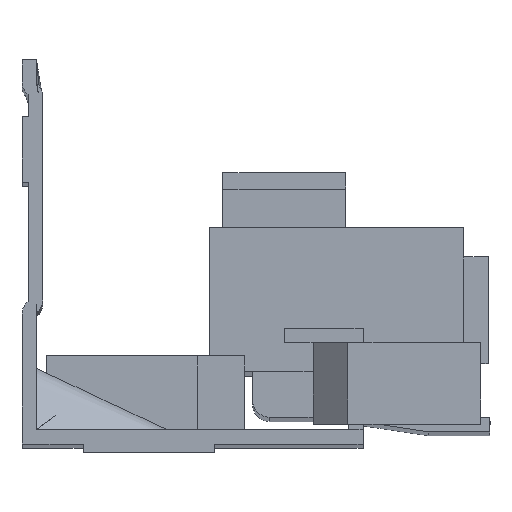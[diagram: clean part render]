
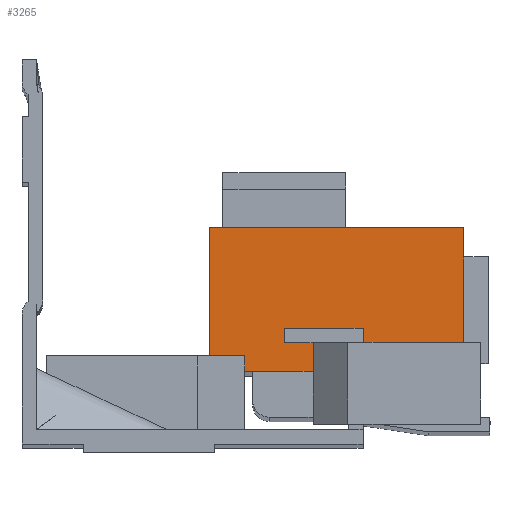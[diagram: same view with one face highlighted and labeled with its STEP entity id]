
A CAD part, front view. The second image highlights one B-rep face of the part: STEP entity #3265.
In plain terms, the highlighted planar face has unit normal (0, -1, 0).
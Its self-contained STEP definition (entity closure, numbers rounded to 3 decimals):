
#476 = CARTESIAN_POINT ( 'NONE',  ( 53.9, -20., -29.558 ) ) ;
#477 = DIRECTION ( 'NONE',  ( 0., 0., -1. ) ) ;
#490 = CARTESIAN_POINT ( 'NONE',  ( 49.9, -20., -23.558 ) ) ;
#491 = DIRECTION ( 'NONE',  ( 1., 0., 0. ) ) ;
#561 = CARTESIAN_POINT ( 'NONE',  ( 41.6, -20., -35.931 ) ) ;
#562 = DIRECTION ( 'NONE',  ( 0., 0., -1. ) ) ;
#1236 = EDGE_CURVE ( 'NONE', #4372, #4427, #2938, .T. ) ;
#1237 = EDGE_CURVE ( 'NONE', #4351, #4372, #2940, .T. ) ;
#1240 = EDGE_CURVE ( 'NONE', #4301, #4351, #2946, .T. ) ;
#1338 = EDGE_CURVE ( 'NONE', #4427, #4359, #3410, .T. ) ;
#1625 = AXIS2_PLACEMENT_3D ( 'NONE', #1708, #1709, #1710 ) ;
#1707 = PLANE ( 'NONE',  #1625 ) ;
#1708 = CARTESIAN_POINT ( 'NONE',  ( 49.9, -20., -27.058 ) ) ;
#1709 = DIRECTION ( 'NONE',  ( 0., 1., 0. ) ) ;
#1710 = DIRECTION ( 'NONE',  ( 1., 0., 0. ) ) ;
#1852 = CARTESIAN_POINT ( 'NONE',  ( 49.9, -20., -27.058 ) ) ;
#1853 = DIRECTION ( 'NONE',  ( -1., 0., 0. ) ) ;
#1854 = CARTESIAN_POINT ( 'NONE',  ( 35.5, -20., -27.058 ) ) ;
#1855 = DIRECTION ( 'NONE',  ( 0., 0., -1. ) ) ;
#1856 = CARTESIAN_POINT ( 'NONE',  ( 32., -20., -23.608 ) ) ;
#1857 = DIRECTION ( 'NONE',  ( -1., 0., 0. ) ) ;
#1858 = CARTESIAN_POINT ( 'NONE',  ( 32., -20., -21.831 ) ) ;
#1859 = DIRECTION ( 'NONE',  ( 0., 0., 1. ) ) ;
#1860 = CARTESIAN_POINT ( 'NONE',  ( 41.6, -20., -21.858 ) ) ;
#1861 = DIRECTION ( 'NONE',  ( 1., 0., 0. ) ) ;
#1951 = CARTESIAN_POINT ( 'NONE',  ( 27.15, -20., -27.058 ) ) ;
#1963 = CARTESIAN_POINT ( 'NONE',  ( 32., -20., -21.858 ) ) ;
#1997 = CARTESIAN_POINT ( 'NONE',  ( 35.5, -20., -27.058 ) ) ;
#2001 = CARTESIAN_POINT ( 'NONE',  ( 27.15, -20., -25.181 ) ) ;
#2009 = CARTESIAN_POINT ( 'NONE',  ( 53.9, -20., -9.558 ) ) ;
#2022 = CARTESIAN_POINT ( 'NONE',  ( 22.9, -20., -25.181 ) ) ;
#2053 = CARTESIAN_POINT ( 'NONE',  ( 32., -20., -23.608 ) ) ;
#2065 = CARTESIAN_POINT ( 'NONE',  ( 41.6, -20., -21.858 ) ) ;
#2076 = CARTESIAN_POINT ( 'NONE',  ( 41.6, -20., -23.558 ) ) ;
#2077 = CARTESIAN_POINT ( 'NONE',  ( 22.9, -20., -9.558 ) ) ;
#2112 = CARTESIAN_POINT ( 'NONE',  ( 53.9, -20., -23.558 ) ) ;
#2118 = CARTESIAN_POINT ( 'NONE',  ( 35.5, -20., -23.608 ) ) ;
#2705 = ORIENTED_EDGE ( 'NONE', *, *, #1240, .F. ) ;
#2706 = ORIENTED_EDGE ( 'NONE', *, *, #1237, .F. ) ;
#2707 = ORIENTED_EDGE ( 'NONE', *, *, #1236, .F. ) ;
#2708 = ORIENTED_EDGE ( 'NONE', *, *, #1338, .F. ) ;
#2709 = ORIENTED_EDGE ( 'NONE', *, *, #2979, .F. ) ;
#2710 = ORIENTED_EDGE ( 'NONE', *, *, #2986, .T. ) ;
#2711 = ORIENTED_EDGE ( 'NONE', *, *, #3217, .T. ) ;
#2712 = ORIENTED_EDGE ( 'NONE', *, *, #3942, .T. ) ;
#2713 = ORIENTED_EDGE ( 'NONE', *, *, #3941, .T. ) ;
#2714 = ORIENTED_EDGE ( 'NONE', *, *, #3940, .T. ) ;
#2715 = ORIENTED_EDGE ( 'NONE', *, *, #3301, .F. ) ;
#2716 = ORIENTED_EDGE ( 'NONE', *, *, #3300, .F. ) ;
#2834 = EDGE_LOOP ( 'NONE', ( #2716, #2715, #2714, #2713, #2712, #2711, #2710, #2709, #2708, #2707, #2706, #2705 ) ) ;
#2938 = LINE ( 'NONE', #4495, #2939 ) ;
#2939 = VECTOR ( 'NONE', #4496, 1000. ) ;
#2940 = LINE ( 'NONE', #4497, #2941 ) ;
#2941 = VECTOR ( 'NONE', #4498, 1000. ) ;
#2946 = LINE ( 'NONE', #4503, #2947 ) ;
#2947 = VECTOR ( 'NONE', #4504, 1000. ) ;
#2979 = EDGE_CURVE ( 'NONE', #4359, #4462, #3880, .T. ) ;
#2986 = EDGE_CURVE ( 'NONE', #4426, #4462, #3894, .T. ) ;
#3041 = LINE ( 'NONE', #561, #3042 ) ;
#3042 = VECTOR ( 'NONE', #562, 1000. ) ;
#3128 = FACE_OUTER_BOUND ( 'NONE', #2834, .T. ) ;
#3177 = LINE ( 'NONE', #1852, #3178 ) ;
#3178 = VECTOR ( 'NONE', #1853, 1000. ) ;
#3179 = LINE ( 'NONE', #1854, #3180 ) ;
#3180 = VECTOR ( 'NONE', #1855, 1000. ) ;
#3181 = LINE ( 'NONE', #1856, #3182 ) ;
#3182 = VECTOR ( 'NONE', #1857, 1000. ) ;
#3183 = LINE ( 'NONE', #1858, #3184 ) ;
#3184 = VECTOR ( 'NONE', #1859, 1000. ) ;
#3185 = LINE ( 'NONE', #1860, #3186 ) ;
#3186 = VECTOR ( 'NONE', #1861, 1000. ) ;
#3217 = EDGE_CURVE ( 'NONE', #4415, #4426, #3041, .T. ) ;
#3265 = ADVANCED_FACE ( 'NONE', ( #3128 ), #1707, .F. ) ;
#3300 = EDGE_CURVE ( 'NONE', #4347, #4301, #3177, .T. ) ;
#3301 = EDGE_CURVE ( 'NONE', #4468, #4347, #3179, .T. ) ;
#3410 = LINE ( 'NONE', #4934, #3411 ) ;
#3411 = VECTOR ( 'NONE', #4935, 1000. ) ;
#3880 = LINE ( 'NONE', #476, #3881 ) ;
#3881 = VECTOR ( 'NONE', #477, 1000. ) ;
#3894 = LINE ( 'NONE', #490, #3895 ) ;
#3895 = VECTOR ( 'NONE', #491, 1000. ) ;
#3940 = EDGE_CURVE ( 'NONE', #4468, #4403, #3181, .T. ) ;
#3941 = EDGE_CURVE ( 'NONE', #4403, #4313, #3183, .T. ) ;
#3942 = EDGE_CURVE ( 'NONE', #4313, #4415, #3185, .T. ) ;
#4301 = VERTEX_POINT ( 'NONE', #1951 ) ;
#4313 = VERTEX_POINT ( 'NONE', #1963 ) ;
#4347 = VERTEX_POINT ( 'NONE', #1997 ) ;
#4351 = VERTEX_POINT ( 'NONE', #2001 ) ;
#4359 = VERTEX_POINT ( 'NONE', #2009 ) ;
#4372 = VERTEX_POINT ( 'NONE', #2022 ) ;
#4403 = VERTEX_POINT ( 'NONE', #2053 ) ;
#4415 = VERTEX_POINT ( 'NONE', #2065 ) ;
#4426 = VERTEX_POINT ( 'NONE', #2076 ) ;
#4427 = VERTEX_POINT ( 'NONE', #2077 ) ;
#4462 = VERTEX_POINT ( 'NONE', #2112 ) ;
#4468 = VERTEX_POINT ( 'NONE', #2118 ) ;
#4495 = CARTESIAN_POINT ( 'NONE',  ( 22.9, -20., -27.058 ) ) ;
#4496 = DIRECTION ( 'NONE',  ( 0., 0., 1. ) ) ;
#4497 = CARTESIAN_POINT ( 'NONE',  ( 49.9, -20., -25.181 ) ) ;
#4498 = DIRECTION ( 'NONE',  ( -1., 0., 0. ) ) ;
#4503 = CARTESIAN_POINT ( 'NONE',  ( 27.15, -20., -27.058 ) ) ;
#4504 = DIRECTION ( 'NONE',  ( 0., 0., 1. ) ) ;
#4934 = CARTESIAN_POINT ( 'NONE',  ( 53.9, -20., -9.558 ) ) ;
#4935 = DIRECTION ( 'NONE',  ( 1., 0., 0. ) ) ;
